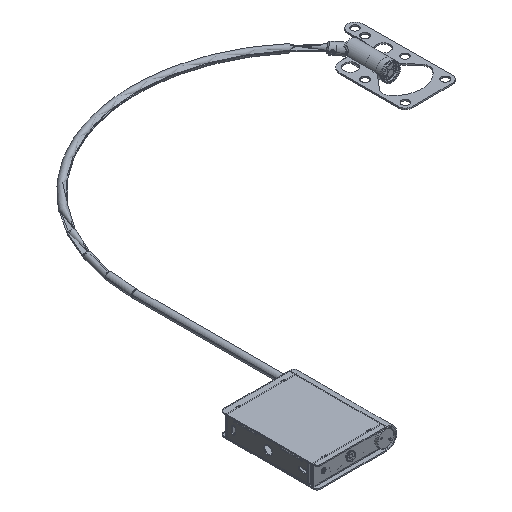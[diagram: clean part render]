
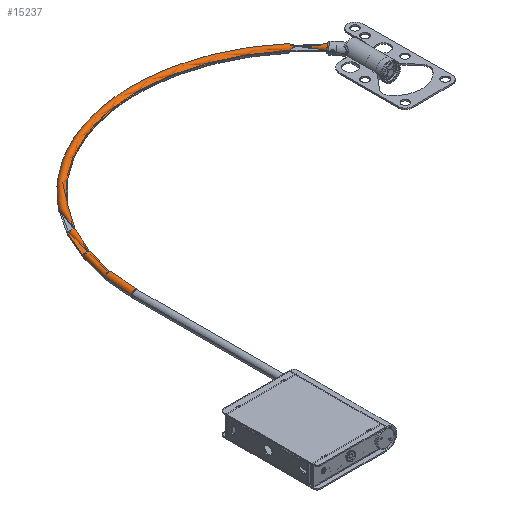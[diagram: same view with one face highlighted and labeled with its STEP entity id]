
A CAD part, isometric view. The second image highlights one B-rep face of the part: STEP entity #15237.
In plain terms, the highlighted toroidal (fillet/blend) face has major radius 255 mm and minor radius 5 mm.
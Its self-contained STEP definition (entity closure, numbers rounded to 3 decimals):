
#1574 = CARTESIAN_POINT ( 'NONE',  ( -457.058, 398.623, 0. ) ) ;
#1854 = VERTEX_POINT ( 'NONE', #7319 ) ;
#2200 = EDGE_CURVE ( 'NONE', #4957, #11977, #17615, .T. ) ;
#2491 = CARTESIAN_POINT ( 'NONE',  ( -446.071, 396.278, -0.632 ) ) ;
#2670 = DIRECTION ( 'NONE',  ( 1., 0., 0. ) ) ;
#2700 = DIRECTION ( 'NONE',  ( 0., 0., 1. ) ) ;
#2848 = DIRECTION ( 'NONE',  ( 1., 0., 0. ) ) ;
#2992 = EDGE_CURVE ( 'NONE', #5159, #12565, #11940, .T. ) ;
#3656 = CARTESIAN_POINT ( 'NONE',  ( -447.24, 395.012, -1.092 ) ) ;
#3667 = DIRECTION ( 'NONE',  ( 0., 0., 1. ) ) ;
#4022 = EDGE_CURVE ( 'NONE', #5714, #11977, #19526, .T. ) ;
#4197 = CARTESIAN_POINT ( 'NONE',  ( -449.286, 392.33, 0. ) ) ;
#4275 = CARTESIAN_POINT ( 'NONE',  ( -255., 235., 0. ) ) ;
#4383 = DIRECTION ( 'NONE',  ( 0., 0., 1. ) ) ;
#4384 = EDGE_CURVE ( 'NONE', #4957, #12565, #8285, .T. ) ;
#4841 = ORIENTED_EDGE ( 'NONE', *, *, #2200, .F. ) ;
#4957 = VERTEX_POINT ( 'NONE', #19186 ) ;
#5159 = VERTEX_POINT ( 'NONE', #1574 ) ;
#5426 = CIRCLE ( 'NONE', #6766, 260. ) ;
#5595 = CARTESIAN_POINT ( 'NONE',  ( -445.967, 396.356, -0.328 ) ) ;
#5687 = CARTESIAN_POINT ( 'NONE',  ( -446.146, 396.221, -0.769 ) ) ;
#5714 = VERTEX_POINT ( 'NONE', #7042 ) ;
#5797 = CARTESIAN_POINT ( 'NONE',  ( -445.94, 396.375, 0. ) ) ;
#6240 = ORIENTED_EDGE ( 'NONE', *, *, #4022, .T. ) ;
#6766 = AXIS2_PLACEMENT_3D ( 'NONE', #18293, #3667, #10189 ) ;
#6979 = CARTESIAN_POINT ( 'NONE',  ( -447.544, 394.458, 0. ) ) ;
#7042 = CARTESIAN_POINT ( 'NONE',  ( -5., 235., 0. ) ) ;
#7058 = CARTESIAN_POINT ( 'NONE',  ( -453.172, 395.477, 0. ) ) ;
#7319 = CARTESIAN_POINT ( 'NONE',  ( 5., 235., 0. ) ) ;
#8280 = ORIENTED_EDGE ( 'NONE', *, *, #2992, .F. ) ;
#8285 = CIRCLE ( 'NONE', #20559, 250. ) ;
#9127 = CARTESIAN_POINT ( 'NONE',  ( -255., 235., 0. ) ) ;
#9534 = DIRECTION ( 'NONE',  ( 1., 0., 0. ) ) ;
#10189 = DIRECTION ( 'NONE',  ( 1., 0., 0. ) ) ;
#10920 = CARTESIAN_POINT ( 'NONE',  ( -255., 235., 0. ) ) ;
#11737 = DIRECTION ( 'NONE',  ( 0., 1., 0. ) ) ;
#11772 = CARTESIAN_POINT ( 'NONE',  ( -447.471, 394.605, -0.632 ) ) ;
#11940 = CIRCLE ( 'NONE', #13317, 5. ) ;
#11977 = VERTEX_POINT ( 'NONE', #13766 ) ;
#12356 = AXIS2_PLACEMENT_3D ( 'NONE', #10920, #2700, #9534 ) ;
#12548 = FACE_OUTER_BOUND ( 'NONE', #20557, .T. ) ;
#12565 = VERTEX_POINT ( 'NONE', #4197 ) ;
#13166 = CARTESIAN_POINT ( 'NONE',  ( -446.761, 395.646, -1.25 ) ) ;
#13170 = AXIS2_PLACEMENT_3D ( 'NONE', #13339, #11737, #16950 ) ;
#13317 = AXIS2_PLACEMENT_3D ( 'NONE', #7058, #16655, #15053 ) ;
#13339 = CARTESIAN_POINT ( 'NONE',  ( 0., 235., 0. ) ) ;
#13386 = CARTESIAN_POINT ( 'NONE',  ( -447.544, 394.458, -0.163 ) ) ;
#13520 = CIRCLE ( 'NONE', #13170, 5. ) ;
#13766 = CARTESIAN_POINT ( 'NONE',  ( -445.94, 396.375, 0. ) ) ;
#14656 = CARTESIAN_POINT ( 'NONE',  ( -447.428, 394.688, -0.769 ) ) ;
#15053 = DIRECTION ( 'NONE',  ( 0., 0., 1. ) ) ;
#15092 = ORIENTED_EDGE ( 'NONE', *, *, #20476, .T. ) ;
#15237 = ADVANCED_FACE ( 'NONE', ( #12548 ), #17712, .T. ) ;
#15316 = AXIS2_PLACEMENT_3D ( 'NONE', #9127, #17467, #2848 ) ;
#15382 = CARTESIAN_POINT ( 'NONE',  ( -446.327, 396.071, -0.999 ) ) ;
#15609 = EDGE_CURVE ( 'NONE', #1854, #5159, #5426, .T. ) ;
#16371 = CARTESIAN_POINT ( 'NONE',  ( -446.971, 395.395, -1.25 ) ) ;
#16655 = DIRECTION ( 'NONE',  ( -0.629, -0.777, 0. ) ) ;
#16791 = CARTESIAN_POINT ( 'NONE',  ( -445.94, 396.375, -0.165 ) ) ;
#16950 = DIRECTION ( 'NONE',  ( 0., 0., 1. ) ) ;
#17467 = DIRECTION ( 'NONE',  ( 0., 0., 1. ) ) ;
#17537 = ORIENTED_EDGE ( 'NONE', *, *, #15609, .F. ) ;
#17615 = B_SPLINE_CURVE_WITH_KNOTS ( 'NONE', 3,
 ( #6979, #13386, #19912, #11772, #14656, #18280, #3656, #17968, #16371, #13166, #19686, #18701, #15382, #5687, #2491, #5595, #16791, #5797 ),
 .UNSPECIFIED., .F., .F.,
 ( 4, 2, 2, 2, 2, 2, 2, 2, 4 ),
 ( 0.007, 0.008, 0.008, 0.009, 0.009, 0.01, 0.01, 0.011, 0.011 ),
 .UNSPECIFIED. ) ;
#17712 = TOROIDAL_SURFACE ( 'NONE', #15316, 255., 5. ) ;
#17968 = CARTESIAN_POINT ( 'NONE',  ( -447.07, 395.263, -1.217 ) ) ;
#18280 = CARTESIAN_POINT ( 'NONE',  ( -447.312, 394.893, -1. ) ) ;
#18293 = CARTESIAN_POINT ( 'NONE',  ( -255., 235., 0. ) ) ;
#18701 = CARTESIAN_POINT ( 'NONE',  ( -446.432, 395.978, -1.092 ) ) ;
#19186 = CARTESIAN_POINT ( 'NONE',  ( -447.544, 394.458, 0. ) ) ;
#19235 = ORIENTED_EDGE ( 'NONE', *, *, #4384, .T. ) ;
#19526 = CIRCLE ( 'NONE', #12356, 250. ) ;
#19686 = CARTESIAN_POINT ( 'NONE',  ( -446.648, 395.767, -1.217 ) ) ;
#19912 = CARTESIAN_POINT ( 'NONE',  ( -447.53, 394.488, -0.328 ) ) ;
#20476 = EDGE_CURVE ( 'NONE', #1854, #5714, #13520, .T. ) ;
#20557 = EDGE_LOOP ( 'NONE', ( #17537, #15092, #6240, #4841, #19235, #8280 ) ) ;
#20559 = AXIS2_PLACEMENT_3D ( 'NONE', #4275, #4383, #2670 ) ;
